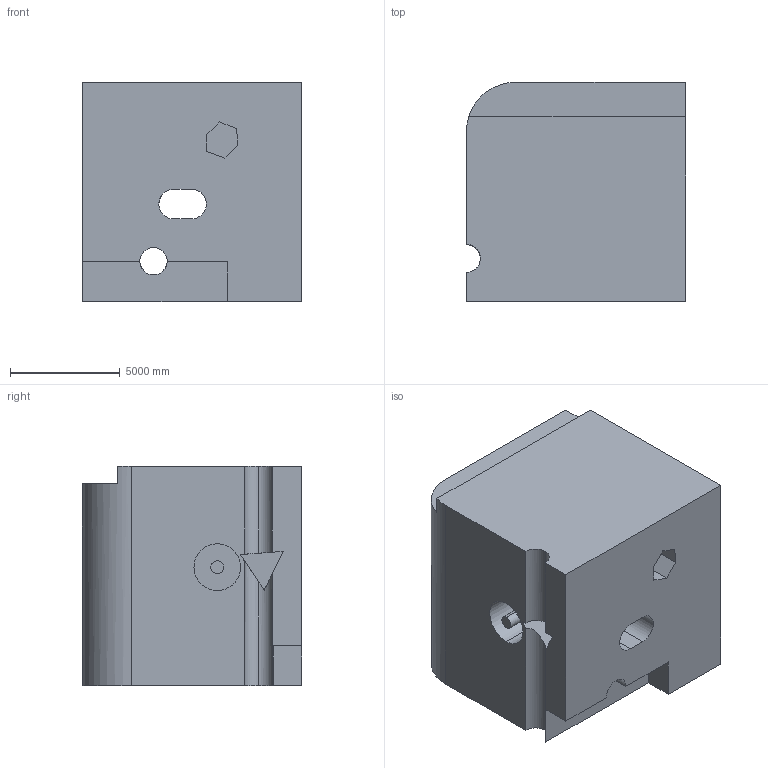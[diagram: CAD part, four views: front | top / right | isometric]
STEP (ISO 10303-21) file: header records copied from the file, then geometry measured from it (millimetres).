
FILE_DESCRIPTION (( 'STEP AP203' ), '1' );
FILE_NAME ('191.STEP', '2022-09-06T15:27:44', ( 'user' ), ( '' ), 'SwSTEP 2.0', 'SolidWorks 2021', '' );
FILE_SCHEMA (( 'CONFIG_CONTROL_DESIGN' ));
Length unit declared in the file: centimetre
Products named in the file (1): 191
Bounding box: 10000 x 10000 x 10000 mm (x, y, z)
Volume: 881893989199.1 mm3; surface area: 767317269.6 mm2
Topology: 1 solids, 1 shells, 45 faces, 129 edges, 86 vertices
Faces by surface type: plane 30, cylinder 15
Entity records: 1797 total; most frequent: CARTESIAN_POINT 524, ORIENTED_EDGE 258, DIRECTION 239, EDGE_CURVE 129, VECTOR 89, LINE 89, VERTEX_POINT 86, AXIS2_PLACEMENT_3D 75
